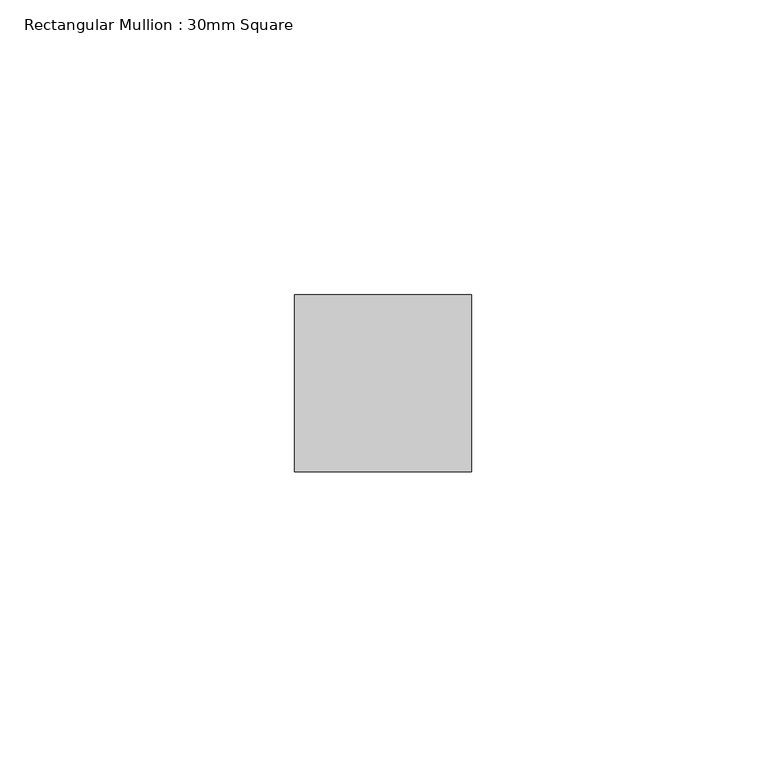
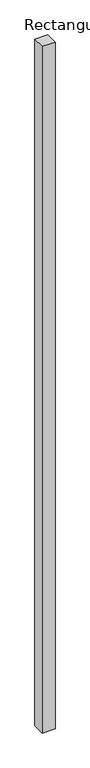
"""IFC4 building model written with IfcOpenShell, lengths in millimetres: member geometry, Rectangular Mullion : 30mm Square."""

from ifc_helpers import new_model, si_unit, frame, origin, place, context, project, spatial, polyline, outline, extrude, source, transform, mapped, element, save


def rectangular_mullion_30mm_square_529eeb8e(model_context):
    return source(origin(), model_context, "Body", "SweptSolid", [
        extrude(outline(polyline([(0.0, 15.0), (0.0, -15.0), (-30.0, -15.0), (-30.0, 15.0), (0.0, 15.0)])), frame((0.0, 0.0, -1704.6896141), z_axis=(0.0, 0.0, 1.0), x_axis=(1.0, 0.0, 0.0)), (0.0, 0.0, 1.0), 1704.6896141),
    ])


if __name__ == "__main__":
    model = new_model("IFC4")
    model_context = context("Model", 3, world=origin())
    ifc_project = project(units=[si_unit("LENGTHUNIT", "METRE", prefix="MILLI")], contexts=[model_context])
    site = spatial("IfcSite", under=ifc_project)
    building = spatial("IfcBuilding", under=site)
    placement = place(None, origin())
    rectangular_mullion_30mm_square_shape = rectangular_mullion_30mm_square_529eeb8e(model_context)
    element("IfcMember", 1, ObjectType="Rectangular Mullion : 30mm Square", at=placement, inside=building, context=model_context, shape_type="MappedRepresentation", body=[
        mapped(rectangular_mullion_30mm_square_shape, transform((0.0, 0.0, 0.0), x_axis=(1.0, 0.0, 0.0), y_axis=(0.0, 1.0, 0.0), z_axis=(0.0, 0.0, 1.0))),
    ])
    save(model, "model.ifc")
